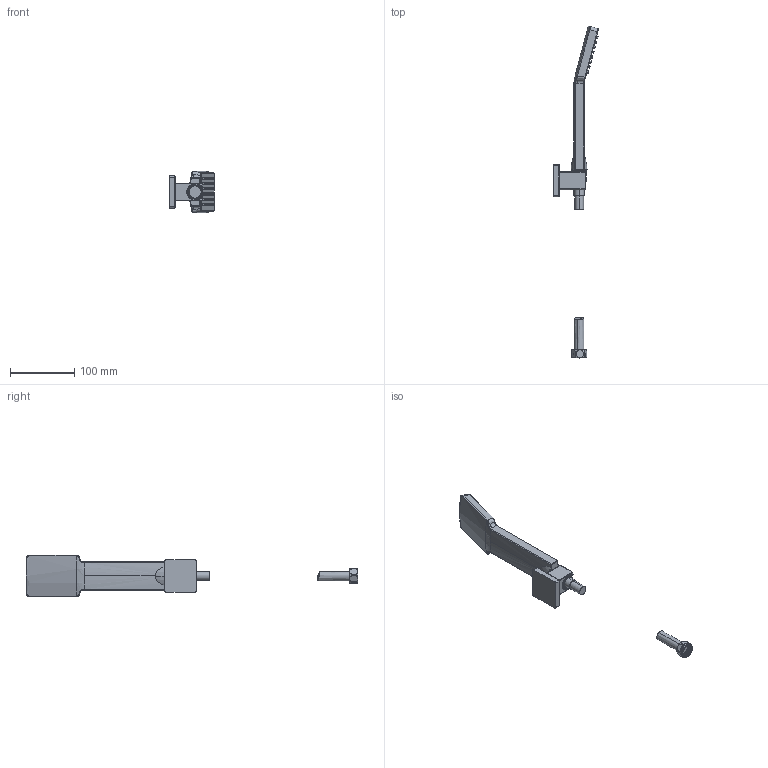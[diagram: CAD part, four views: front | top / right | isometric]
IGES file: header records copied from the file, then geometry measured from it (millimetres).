
Start section: SolidWorks IGES file using analytic representation for surfaces
Global section: file name: E:\工作文件\波兰\新建文件夹\FH 8876A-550.IGS; native system: SolidWorks 2013; preprocessor: SolidWorks 2013; author: J1827277; date: 130523.134336; units: millimetre
Bounding box: 69.41 x 517.33 x 64.47 mm (x, y, z)
Surface area: 52932.2 mm2 (no closed solid volume)
Topology: 0 solids, 0 shells, 1227 faces, 12297 edges, 12139 vertices
Faces by surface type: revolution 824, bspline 403
